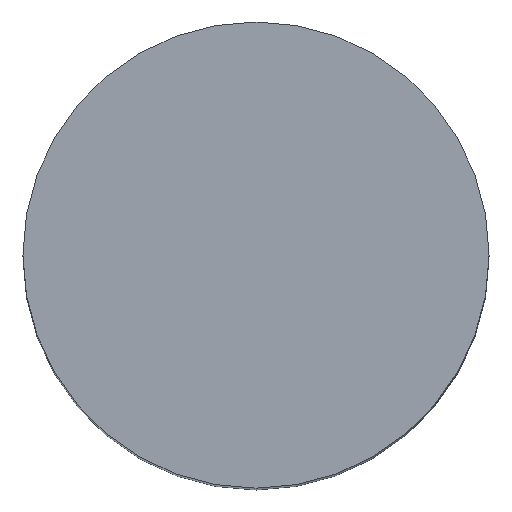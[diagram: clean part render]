
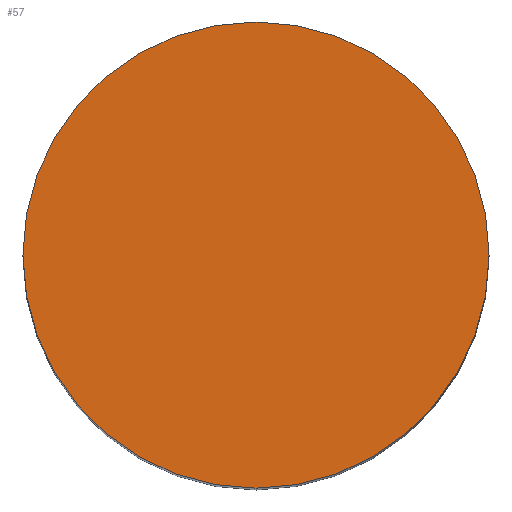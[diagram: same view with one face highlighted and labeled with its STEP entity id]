
A CAD part, top view. The second image highlights one B-rep face of the part: STEP entity #57.
In plain terms, the highlighted planar face has unit normal (0, 0, 1).
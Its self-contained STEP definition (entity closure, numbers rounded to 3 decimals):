
#57=ADVANCED_FACE('',(#92),#94,.F.);
#92=FACE_BOUND('',#93,.T.);
#93=EDGE_LOOP('',(#106));
#94=PLANE('',#95);
#95=AXIS2_PLACEMENT_3D('',#96,#97,#98);
#96=CARTESIAN_POINT('',(0.,0.,49.));
#97=DIRECTION('',(0.,0.,-1.));
#98=DIRECTION('',(0.,-1.,0.));
#106=ORIENTED_EDGE('',*,*,#110,.F.);
#110=EDGE_CURVE('',#117,#117,#118,.T.);
#117=VERTEX_POINT('',#134);
#118=CIRCLE('',#135,10.);
#134=CARTESIAN_POINT('',(-8.,-1.,49.));
#135=AXIS2_PLACEMENT_3D('',#136,#137,#138);
#136=CARTESIAN_POINT('',(2.,-1.,49.));
#137=DIRECTION('',(0.,0.,-1.));
#138=DIRECTION('',(-1.,0.,0.));
